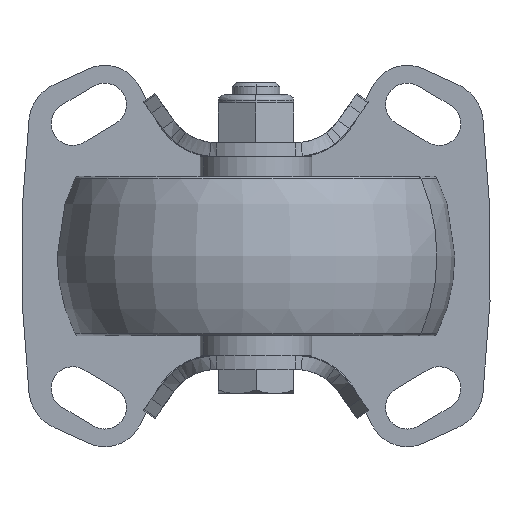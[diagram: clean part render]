
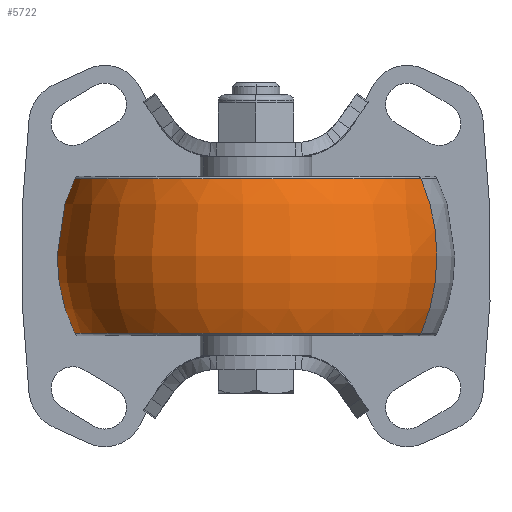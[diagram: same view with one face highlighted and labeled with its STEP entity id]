
A CAD part, front view. The second image highlights one B-rep face of the part: STEP entity #5722.
In plain terms, the highlighted toroidal (fillet/blend) face has major radius 5 mm and minor radius 45 mm.
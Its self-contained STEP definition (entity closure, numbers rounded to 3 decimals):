
#90 = DIRECTION ( 'NONE',  ( 0., 0., 1. ) ) ;
#1672 = CIRCLE ( 'NONE', #16800, 45. ) ;
#1827 = CARTESIAN_POINT ( 'NONE',  ( 19.433, 0., 0. ) ) ;
#1855 = CARTESIAN_POINT ( 'NONE',  ( -19.433, 0., 0. ) ) ;
#3734 = VERTEX_POINT ( 'NONE', #17497 ) ;
#3852 = AXIS2_PLACEMENT_3D ( 'NONE', #13727, #16890, #13907 ) ;
#4070 = CARTESIAN_POINT ( 'NONE',  ( -19.433, 0., 45.588 ) ) ;
#4168 = EDGE_CURVE ( 'NONE', #12747, #3734, #14657, .T. ) ;
#4388 = CIRCLE ( 'NONE', #6904, 45. ) ;
#5458 = AXIS2_PLACEMENT_3D ( 'NONE', #1855, #10931, #14275 ) ;
#5517 = DIRECTION ( 'NONE',  ( 0., -1., 0. ) ) ;
#5722 = ADVANCED_FACE ( 'NONE', ( #15308 ), #14869, .T. ) ;
#6005 = DIRECTION ( 'NONE',  ( 0., 1., 0. ) ) ;
#6441 = ORIENTED_EDGE ( 'NONE', *, *, #13119, .T. ) ;
#6786 = EDGE_LOOP ( 'NONE', ( #11732, #17989, #6441, #7892 ) ) ;
#6814 = VERTEX_POINT ( 'NONE', #12918 ) ;
#6904 = AXIS2_PLACEMENT_3D ( 'NONE', #16280, #5517, #14679 ) ;
#7484 = CARTESIAN_POINT ( 'NONE',  ( 0., 0., -5. ) ) ;
#7892 = ORIENTED_EDGE ( 'NONE', *, *, #15520, .F. ) ;
#10931 = DIRECTION ( 'NONE',  ( -1., 0., 0. ) ) ;
#11732 = ORIENTED_EDGE ( 'NONE', *, *, #15378, .F. ) ;
#12747 = VERTEX_POINT ( 'NONE', #15003 ) ;
#12918 = CARTESIAN_POINT ( 'NONE',  ( -19.433, 0., -45.588 ) ) ;
#13119 = EDGE_CURVE ( 'NONE', #3734, #14973, #4388, .T. ) ;
#13642 = CIRCLE ( 'NONE', #5458, 45.588 ) ;
#13727 = CARTESIAN_POINT ( 'NONE',  ( 0., 0., 0. ) ) ;
#13766 = DIRECTION ( 'NONE',  ( 0., 0., 1. ) ) ;
#13907 = DIRECTION ( 'NONE',  ( 0., 0., 1. ) ) ;
#13955 = DIRECTION ( 'NONE',  ( -1., 0., 0. ) ) ;
#14040 = AXIS2_PLACEMENT_3D ( 'NONE', #1827, #13955, #13766 ) ;
#14275 = DIRECTION ( 'NONE',  ( 0., 0., 1. ) ) ;
#14657 = CIRCLE ( 'NONE', #14040, 45.588 ) ;
#14679 = DIRECTION ( 'NONE',  ( 0., 0., -1. ) ) ;
#14869 = TOROIDAL_SURFACE ( 'NONE', #3852, 5., 45. ) ;
#14973 = VERTEX_POINT ( 'NONE', #4070 ) ;
#15003 = CARTESIAN_POINT ( 'NONE',  ( 19.433, 0., -45.588 ) ) ;
#15308 = FACE_OUTER_BOUND ( 'NONE', #6786, .T. ) ;
#15378 = EDGE_CURVE ( 'NONE', #12747, #6814, #1672, .T. ) ;
#15520 = EDGE_CURVE ( 'NONE', #6814, #14973, #13642, .T. ) ;
#16280 = CARTESIAN_POINT ( 'NONE',  ( 0., 0., 5. ) ) ;
#16800 = AXIS2_PLACEMENT_3D ( 'NONE', #7484, #6005, #90 ) ;
#16890 = DIRECTION ( 'NONE',  ( -1., 0., 0. ) ) ;
#17497 = CARTESIAN_POINT ( 'NONE',  ( 19.433, 0., 45.588 ) ) ;
#17989 = ORIENTED_EDGE ( 'NONE', *, *, #4168, .T. ) ;
